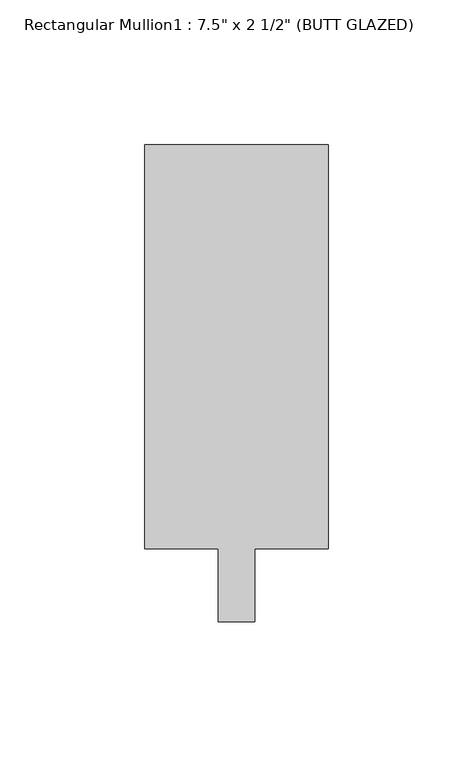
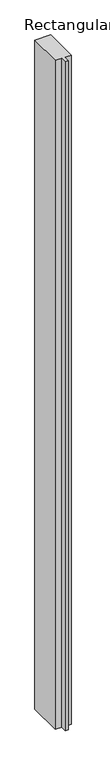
"""IFC4 building model written with IfcOpenShell, lengths in millimetres: member geometry."""

from ifc_helpers import new_model, si_unit, frame, origin, place, context, project, spatial, polyline, outline, extrude, source, transform, mapped, element, save


def member_d1e7b6a3(model_context):
    return source(origin(), model_context, "Body", "SweptSolid", [
        extrude(outline(polyline([(31.75, 165.1), (31.75, 25.4), (6.35, 25.4), (6.35, 0.0), (-6.35, 0.0), (-6.35, 25.4), (-31.75, 25.4), (-31.75, 165.1), (31.75, 165.1)])), frame((0.0, 0.0, -2819.3999994), z_axis=(0.0, 0.0, 1.0), x_axis=(1.0, 0.0, 0.0)), (0.0, 0.0, 1.0), 2819.3999994),
    ])


if __name__ == "__main__":
    model = new_model("IFC4")
    model_context = context("Model", 3, world=origin())
    ifc_project = project(units=[si_unit("LENGTHUNIT", "METRE", prefix="MILLI")], contexts=[model_context])
    site = spatial("IfcSite", under=ifc_project)
    building = spatial("IfcBuilding", under=site)
    placement = place(None, origin())
    member_shape = member_d1e7b6a3(model_context)
    element("IfcMember", 1, ObjectType="Rectangular Mullion1 : 7.5\" x 2 1/2\" (BUTT GLAZED)", at=placement, inside=building, context=model_context, shape_type="MappedRepresentation", body=[
        mapped(member_shape, transform((0.0, 0.0, 0.0), x_axis=(1.0, 0.0, 0.0), y_axis=(0.0, 1.0, 0.0), z_axis=(0.0, 0.0, 1.0))),
    ])
    save(model, "model.ifc")
